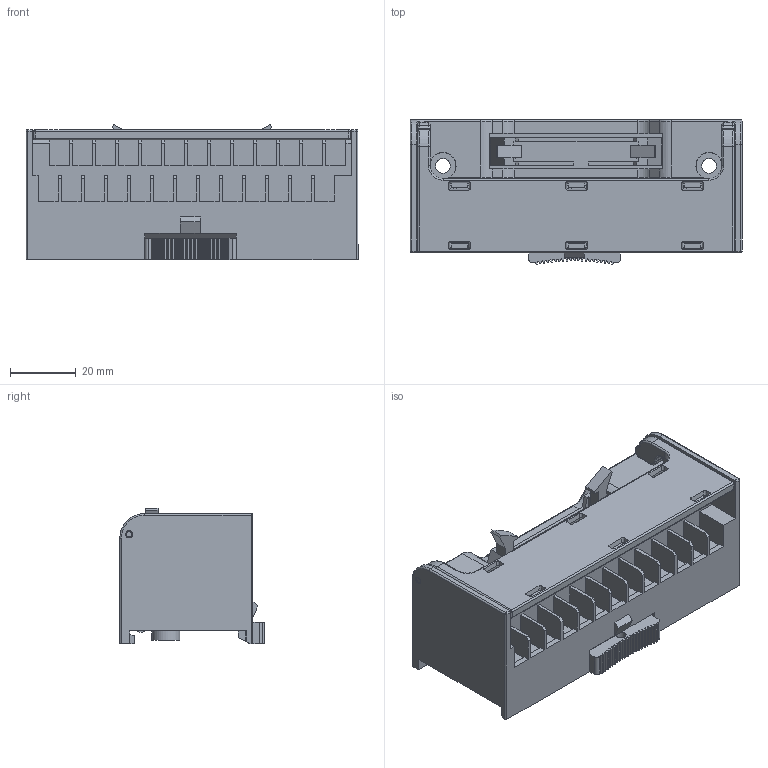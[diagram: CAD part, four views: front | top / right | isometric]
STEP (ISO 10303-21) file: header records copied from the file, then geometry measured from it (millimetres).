
FILE_DESCRIPTION(/* description */ (''),/* implementation_level */ '2;1');
FILE_NAME(/* name */ 'XTB-26H.stp',/* time_stamp */ '2017-09-04T15:24:22+09:00',/* author */ (''),/* organization */ (''),/* preprocessor_version */ 'ST-DEVELOPER v16',/* originating_system */ 'SIEMENS PLM Software NX 11.0',/* authorisation */ '');
FILE_SCHEMA (('AP203_CONFIGURATION_CONTROLLED_3D_DESIGN_OF_MECHANICAL_PARTS_AND_ASSEMBLIES_MIM_LF { 1 0 10303 403 2 1 2}'));
Length unit declared in the file: millimetre
Products named in the file (1): ksle21583784qgnz
Bounding box: 101 x 43.96 x 41.2 mm (x, y, z)
Volume: 99718.1 mm3; surface area: 34533.1 mm2
Topology: 1 solids, 1 shells, 648 faces, 1820 edges, 1169 vertices
Faces by surface type: plane 441, cylinder 151, torus 36, bspline 10, sphere 10
Full cylindrical faces by diameter (mm): 1.5 x2, 2 x2, 2.2 x2, 3 x1, 4.5 x2, 8 x2, 8.5 x2
Entity records: 25385 total; most frequent: CARTESIAN_POINT 4102, ORIENTED_EDGE 3572, DIRECTION 3383, EDGE_CURVE 1786, LINE 1403, VECTOR 1403, VERTEX_POINT 1157, AXIS2_PLACEMENT_3D 990
